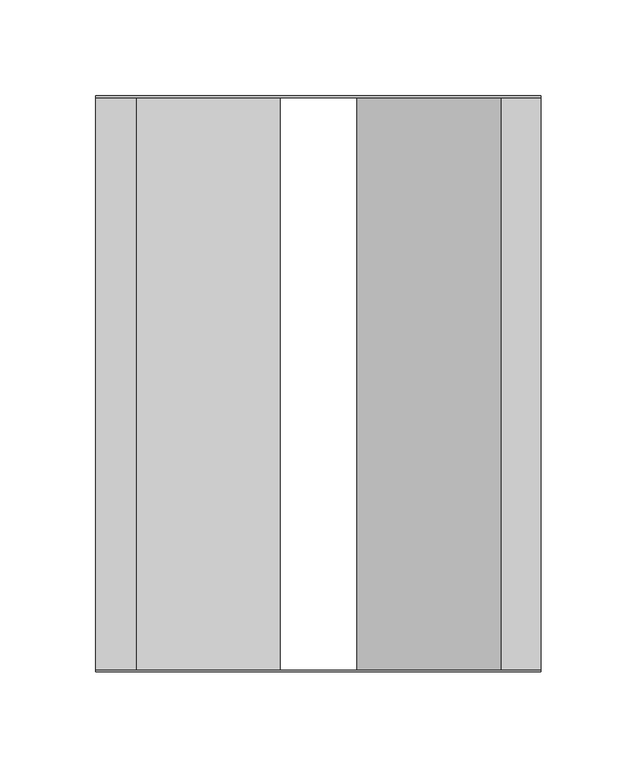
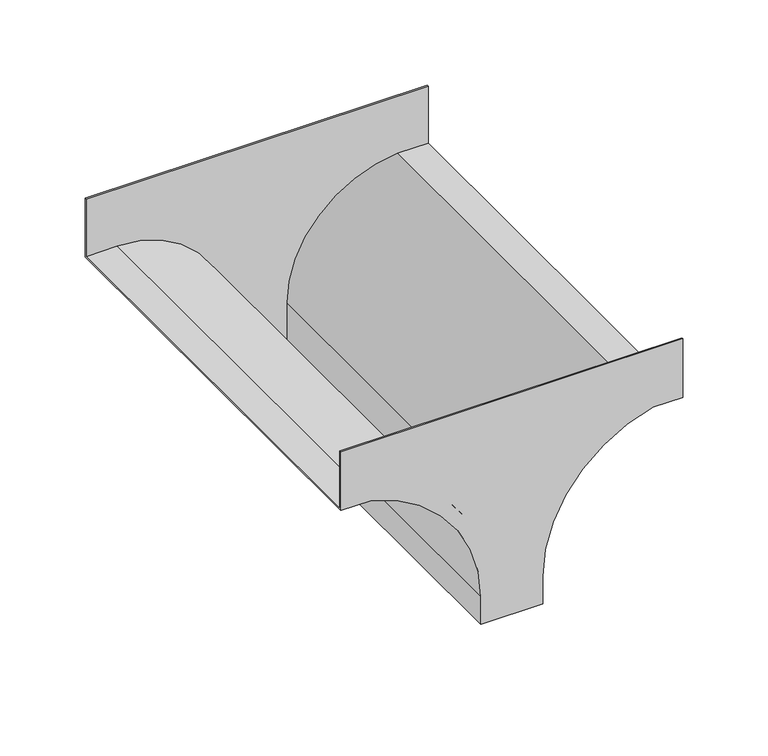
"""IFC4 building model written with IfcOpenShell, lengths in millimetres: cable carrier fitting geometry, BAKS_Vertical tee symetrical : TRSNJ_H42."""

import ifcopenshell
import ifcopenshell.guid

model = None  # the IFC model being written
_history = None  # IfcOwnerHistory: only IFC2X3 demands one
_inside = {}  # id of a spatial element -> (the spatial element, [elements in it])
_under = {}  # id of a project, library or spatial element -> (it, [spatial elements below it])
_declared = {}  # id of a project -> (the project, [libraries it declares])
_typed = {}  # id of a type object -> (the type object, [elements of that type])
_made_of = {}  # id of a material, layer set ... -> (it, [elements and type objects made of it])


def new_model(schema):
    """Start an empty IFC model of exactly this schema.

    Asked for "IFC4X3", IfcOpenShell would pick the latest addendum, in which some entities
    have other attributes; the version numbers below select the first issue.
    IFC2X3 requires an IfcOwnerHistory on every rooted entity: one is made here for all.
    """
    global model, _history
    if schema == "IFC4X3":
        model = ifcopenshell.file(schema_version=(4, 3, 0, 0))
    else:
        model = ifcopenshell.file(schema=schema)
    _inside.clear()
    _under.clear()
    _declared.clear()
    _typed.clear()
    _made_of.clear()
    _history = None
    if model.schema == "IFC2X3":
        org = make("IfcOrganization", Name="unknown")
        user = make(
            "IfcPersonAndOrganization",
            ThePerson=make("IfcPerson", FamilyName="unknown"),
            TheOrganization=org,
        )
        app = make(
            "IfcApplication",
            ApplicationDeveloper=org,
            Version="unknown",
            ApplicationFullName="unknown",
            ApplicationIdentifier="unknown",
        )
        _history = make(
            "IfcOwnerHistory",
            OwningUser=user,
            OwningApplication=app,
            ChangeAction="ADDED",
            CreationDate=0,
        )
    return model


def make(cls, **values):
    """One entity of the class cls with the attributes given. An attribute that is None is left unset."""
    return model.create_entity(
        cls, **{name: value for name, value in values.items() if value is not None}
    )


def rooted(cls, **values):
    """An entity with a GlobalId (a new one), such as an element, a storey or a relation."""
    return make(cls, GlobalId=ifcopenshell.guid.new(), OwnerHistory=_history, **values)


def si_unit(unit_type, name, prefix=None):
    """IfcSIUnit, for example si_unit("LENGTHUNIT", "METRE", prefix="MILLI")."""
    return make("IfcSIUnit", UnitType=unit_type, Prefix=prefix, Name=name)


def assignment(units):
    """IfcUnitAssignment: the units of a project."""
    return None if units is None else make("IfcUnitAssignment", Units=units)


def point(xyz):
    """IfcCartesianPoint."""
    return None if xyz is None else make("IfcCartesianPoint", Coordinates=xyz)


def direction(xyz):
    """IfcDirection."""
    return None if xyz is None else make("IfcDirection", DirectionRatios=xyz)


def frame(location, z_axis=None, x_axis=None):
    """IfcAxis2Placement3D, a coordinate frame: its origin and axes. An axis left out is left unset."""
    return make(
        "IfcAxis2Placement3D",
        Location=point(location),
        Axis=direction(z_axis),
        RefDirection=direction(x_axis),
    )


def origin():
    """The frame at (0, 0, 0) with its axes left unset."""
    return frame((0.0, 0.0, 0.0))


def place(relative_to, where):
    """IfcLocalPlacement: puts the frame where relative to a parent placement (None: the world)."""
    return make(
        "IfcLocalPlacement", PlacementRelTo=relative_to, RelativePlacement=where
    )


def context(
    kind, dimensions, precision=None, world=None, true_north=None, identifier=None
):
    """IfcGeometricRepresentationContext, for example the 3D "Model" context."""
    return make(
        "IfcGeometricRepresentationContext",
        ContextIdentifier=identifier,
        ContextType=kind,
        CoordinateSpaceDimension=dimensions,
        Precision=precision,
        WorldCoordinateSystem=world,
        TrueNorth=true_north,
    )


def project(units=None, contexts=None):
    """IfcProject with its units and contexts."""
    return rooted(
        "IfcProject",
        Name="project",
        RepresentationContexts=contexts,
        UnitsInContext=assignment(units),
    )


def spatial(cls, under=None, at=None, **own):
    """A site, building, storey or space (cls), placed at a placement, below another one or the project."""
    s = rooted(cls, ObjectPlacement=at, **own)
    if under is not None:
        _under.setdefault(under.id(), (under, []))[1].append(s)
    return s


def polyline(points):
    """IfcPolyline through the points."""
    return make("IfcPolyline", Points=[point(p) for p in points])


def circle_curve(where, radius):
    """IfcCircle in the frame where."""
    return make("IfcCircle", Position=where, Radius=radius)


def shape(context_of_items, identifier, shape_type, items):
    """IfcShapeRepresentation: the items that make up one representation, for example the "Body"."""
    return make(
        "IfcShapeRepresentation",
        ContextOfItems=context_of_items,
        RepresentationIdentifier=identifier,
        RepresentationType=shape_type,
        Items=items,
    )


def source(mapping_origin, context_of_items, identifier, shape_type, items):
    """IfcRepresentationMap: a shape defined once, which mapped items show again and again."""
    return make(
        "IfcRepresentationMap",
        MappingOrigin=mapping_origin,
        MappedRepresentation=shape(context_of_items, identifier, shape_type, items),
    )


def transform(
    local_origin,
    x_axis=None,
    y_axis=None,
    z_axis=None,
    scale=None,
    scale2=None,
    scale3=None,
    uniform=True,
):
    """IfcCartesianTransformationOperator3D, or its non-uniform kind. x_axis, y_axis, z_axis: its Axis1, 2, 3."""
    if uniform:
        return make(
            "IfcCartesianTransformationOperator3D",
            Axis1=direction(x_axis),
            Axis2=direction(y_axis),
            LocalOrigin=point(local_origin),
            Scale=scale,
            Axis3=direction(z_axis),
        )
    return make(
        "IfcCartesianTransformationOperator3DnonUniform",
        Axis1=direction(x_axis),
        Axis2=direction(y_axis),
        LocalOrigin=point(local_origin),
        Scale=scale,
        Axis3=direction(z_axis),
        Scale2=scale2,
        Scale3=scale3,
    )


def mapped(mapping_source, mapping_target):
    """IfcMappedItem: shows the shape of a source again, moved by a transform."""
    return make(
        "IfcMappedItem", MappingSource=mapping_source, MappingTarget=mapping_target
    )


def made_of(thing, what):
    """Note that an element or type object is made of a material, layer set ...; save() writes the relation."""
    if what is not None:
        _made_of.setdefault(what.id(), (what, []))[1].append(thing)
    return thing


def element(
    cls,
    number,
    at=None,
    inside=None,
    cuts=None,
    type_object=None,
    material=None,
    context=None,
    identifier="Body",
    shape_type=None,
    held_by="IfcProductDefinitionShape",
    body=None,
    shapes=None,
    **own,
):
    """One element of the class cls, such as IfcWall. Its Tag is "e" and its number.

    at: its placement. inside: the storey or other place that contains it. cuts: it is an
    opening in that element (IfcRelVoidsElement). A single representation is given by context,
    identifier, shape_type and body (its items); several are given by shapes. held_by: the class
    of the entity that holds the representations. save() writes the other relations.
    """
    e = rooted(cls, Tag="e%d" % number, ObjectPlacement=at, **own)
    if body is not None:
        shapes = [shape(context, identifier, shape_type, body)]
    if shapes is not None:
        e.Representation = make(held_by, Representations=shapes)
    if inside is not None:
        _inside.setdefault(inside.id(), (inside, []))[1].append(e)
    if cuts is not None:
        rooted(
            "IfcRelVoidsElement", RelatingBuildingElement=cuts, RelatedOpeningElement=e
        )
    if type_object is not None:
        _typed.setdefault(type_object.id(), (type_object, []))[1].append(e)
    return made_of(e, material)


def aggregate(whole, parts):
    """IfcRelAggregates: a whole, such as a stair, and the parts it consists of."""
    return rooted("IfcRelAggregates", RelatingObject=whole, RelatedObjects=parts)


def save(model, path):
    """Write the relations noted so far, then the file.

    IfcRelAggregates (storeys below a building ...), IfcRelContainedInSpatialStructure (elements
    in a storey), IfcRelDefinesByType, IfcRelAssociatesMaterial and IfcRelDeclares: one each for
    every whole, place, type object, material and project.
    """
    for whole, parts in _under.values():
        aggregate(whole, parts)
    for where, things in _inside.values():
        rooted(
            "IfcRelContainedInSpatialStructure",
            RelatedElements=things,
            RelatingStructure=where,
        )
    for kind, things in _typed.values():
        rooted("IfcRelDefinesByType", RelatedObjects=things, RelatingType=kind)
    for what, things in _made_of.values():
        rooted("IfcRelAssociatesMaterial", RelatedObjects=things, RelatingMaterial=what)
    for by, libraries in _declared.values():
        rooted("IfcRelDeclares", RelatingContext=by, RelatedDefinitions=libraries)
    model.write(path)


def plane_surface(at):
    """IfcPlane: the flat surface through the origin of the frame at, square to its z axis."""
    return make("IfcPlane", Position=at)


def cylinder_surface(at, radius):
    """IfcCylindricalSurface: all points at the distance radius from the z axis of the frame at."""
    return make("IfcCylindricalSurface", Position=at, Radius=radius)


def revolved_surface(curve, axis_point, axis_direction):
    """IfcSurfaceOfRevolution: the curve turned about the line through axis_point along axis_direction."""
    return make(
        "IfcSurfaceOfRevolution",
        SweptCurve=make("IfcArbitraryOpenProfileDef", ProfileType="CURVE", Curve=curve),
        AxisPosition=make("IfcAxis1Placement", Location=point(axis_point), Axis=direction(axis_direction)),
    )


def advanced_brep(points, edges, surfaces, faces):
    """IfcAdvancedBrep: a solid bounded by faces that lie on surfaces and meet in shared edges.

    An edge is (start, end): straight between two places in points (the first is 0);
    or (start, end, curve); or (start, end, curve, False) where it runs against its curve.
    A face is (place in surfaces, loops), or (place, loops, False) where it looks against
    its surface's normal. A loop lists edges by number (the first is 1), with a minus sign
    where the edge is run from its end to its start. The first loop is the outer one.
    """
    corners = [point(p) for p in points]
    vertices = [make("IfcVertexPoint", VertexGeometry=c) for c in corners]
    made = []
    for start, end, *more in edges:
        made.append(
            make(
                "IfcEdgeCurve",
                EdgeStart=vertices[start],
                EdgeEnd=vertices[end],
                EdgeGeometry=more[0] if more else make("IfcPolyline", Points=[corners[start], corners[end]]),
                SameSense=more[1] if len(more) > 1 else True,
            )
        )
    hull = []
    for where, loops, *sense in faces:
        bounds = []
        for j, loop in enumerate(loops):
            ring = [make("IfcOrientedEdge", EdgeElement=made[abs(k) - 1], Orientation=k > 0) for k in loop]
            bounds.append(
                make(
                    "IfcFaceOuterBound" if j == 0 else "IfcFaceBound",
                    Bound=make("IfcEdgeLoop", EdgeList=ring),
                    Orientation=True,
                )
            )
        hull.append(make("IfcAdvancedFace", Bounds=bounds, FaceSurface=surfaces[where], SameSense=sense[0] if sense else True))
    return make("IfcAdvancedBrep", Outer=make("IfcClosedShell", CfsFaces=hull))


def cable_carrier_fitting_2f03b0e3(model_context):
    return source(origin(), model_context, "Body", "AdvancedBrep", [
        advanced_brep(
        [(-21.0, -150.0, -116.0), (-21.0, -150.0, -136.0), (21.0, -150.0, -136.0), (21.0, -150.0, -116.0), (96.0, -150.0, -21.0), (116.0, -150.0, -21.0), (116.0, -150.0, 21.0), (-116.0, -150.0, 21.0), (-116.0, -150.0, -21.0), (-96.0, -150.0, -21.0), (-21.0, 150.0, -116.0), (-96.0, 150.0, -21.0), (-116.0, 150.0, -21.0), (-116.0, 150.0, 21.0), (116.0, 150.0, 21.0), (116.0, 150.0, -21.0), (96.0, 150.0, -21.0), (21.0, 150.0, -116.0), (21.0, 150.0, -136.0), (-21.0, 150.0, -136.0), (-20.0, -149.0, -136.0), (20.0, -149.0, -136.0), (20.0, 149.0, -136.0), (-20.0, 149.0, -136.0), (116.0, 149.0, 21.0), (116.0, 149.0, -20.0), (116.0, -149.0, -20.0), (116.0, -149.0, 21.0), (-116.0, -149.0, 21.0), (-116.0, 149.0, 21.0), (-116.0, -149.0, -20.0), (-116.0, 149.0, -20.0), (95.0, -149.0, -20.0), (20.0, -149.0, -101.0), (-20.0, -149.0, -101.0), (-95.0, -149.0, -20.0), (-95.0, 149.0, -20.0), (-20.0, 149.0, -101.0), (20.0, 149.0, -101.0), (95.0, 149.0, -20.0)],
        [
            (0, 1),
            (1, 2),
            (2, 3),
            (3, 4, circle_curve(frame((118.6666667, -150.0, -116.0), z_axis=(0.0, 1.0, 0.0), x_axis=(1.0, 0.0, 0.0)), 97.6666667)),
            (4, 5),
            (5, 6),
            (6, 7),
            (7, 8),
            (8, 9),
            (9, 0, circle_curve(frame((-118.6666667, -150.0, -116.0), z_axis=(0.0, 1.0, 0.0), x_axis=(1.0, 0.0, 0.0)), 97.6666667)),
            (10, 11, circle_curve(frame((-118.6666667, 150.0, -116.0), z_axis=(0.0, -1.0, 0.0), x_axis=(1.0, 0.0, 0.0)), 97.6666667)),
            (11, 12),
            (12, 13),
            (13, 14),
            (14, 15),
            (15, 16),
            (16, 17, circle_curve(frame((118.6666667, 150.0, -116.0), z_axis=(0.0, -1.0, 0.0), x_axis=(1.0, 0.0, 0.0)), 97.6666667)),
            (17, 18),
            (18, 19),
            (19, 10),
            (0, 10),
            (19, 1),
            (18, 2),
            (20, 21),
            (21, 22),
            (22, 23),
            (23, 20),
            (17, 3),
            (16, 4),
            (15, 5),
            (14, 24),
            (24, 25),
            (25, 26),
            (26, 27),
            (27, 6),
            (27, 28),
            (28, 7),
            (13, 29),
            (29, 24),
            (28, 30),
            (30, 31),
            (31, 29),
            (12, 8),
            (11, 9),
            (26, 32),
            (32, 33, circle_curve(frame((101.24, -149.0, -101.0), z_axis=(0.0, -1.0, 0.0), x_axis=(1.0, 0.0, 0.0)), 81.24)),
            (33, 21),
            (20, 34),
            (34, 35, circle_curve(frame((-95.0, -149.0, -95.2222222), z_axis=(0.0, -1.0, 0.0), x_axis=(1.0, 0.0, 0.0)), 75.2222222)),
            (35, 30),
            (31, 36),
            (36, 37, circle_curve(frame((-95.0, 149.0, -95.2222222), z_axis=(0.0, 1.0, 0.0), x_axis=(1.0, 0.0, 0.0)), 75.2222222)),
            (37, 23),
            (22, 38),
            (38, 39, circle_curve(frame((101.24, 149.0, -101.0), z_axis=(0.0, 1.0, 0.0), x_axis=(1.0, 0.0, 0.0)), 81.24)),
            (39, 25),
            (35, 36),
            (34, 37),
            (33, 38),
            (32, 39),
        ],
        [
            plane_surface(frame((-21.0, -150.0, -136.0), z_axis=(0.0, -1.0, 0.0), x_axis=(0.0, 0.0, -1.0))),
            plane_surface(frame((-21.0, 150.0, -136.0), z_axis=(0.0, 1.0, 0.0), x_axis=(0.0, 0.0, 1.0))),
            plane_surface(frame((-21.0, -150.0, -116.0), z_axis=(-1.0, 0.0, 0.0), x_axis=(0.0, 1.0, 0.0))),
            plane_surface(frame((-21.0, -150.0, -136.0), z_axis=(0.0, 0.0, -1.0), x_axis=(0.0, 1.0, 0.0))),
            plane_surface(frame((21.0, -150.0, -136.0), z_axis=(1.0, 0.0, 0.0), x_axis=(0.0, 1.0, 0.0))),
            revolved_surface(polyline([(216.3333334, 150.0, -116.0), (216.3333334, -150.0, -116.0)]), (118.6666667, 150.0, -116.0), (0.0, 1.0, 0.0)),
            plane_surface(frame((96.0, -150.0, -21.0), z_axis=(0.0, 0.0, -1.0), x_axis=(0.0, 1.0, 0.0))),
            plane_surface(frame((116.0, -150.0, -21.0), z_axis=(1.0, 0.0, 0.0), x_axis=(0.0, 1.0, 0.0))),
            plane_surface(frame((116.0, -150.0, 21.0), z_axis=(0.0, 0.0, 1.0), x_axis=(0.0, 1.0, 0.0))),
            plane_surface(frame((-116.0, -150.0, 21.0), z_axis=(-1.0, 0.0, 0.0), x_axis=(0.0, 1.0, 0.0))),
            plane_surface(frame((-116.0, -150.0, -21.0), z_axis=(0.0, 0.0, -1.0), x_axis=(0.0, 1.0, 0.0))),
            revolved_surface(polyline([(-21.0, 150.0, -116.0), (-21.0, -150.0, -116.0)]), (-118.6666667, 150.0, -116.0), (0.0, 1.0, 0.0)),
            plane_surface(frame((-116.0, -149.0, -20.0), z_axis=(0.0, 1.0, 0.0), x_axis=(1.0, 0.0, 0.0))),
            plane_surface(frame((-116.0, 149.0, -20.0), z_axis=(0.0, -1.0, 0.0), x_axis=(-1.0, 0.0, 0.0))),
            plane_surface(frame((-116.0, -149.0, -20.0), z_axis=(0.0, 0.0, 1.0), x_axis=(0.0, 1.0, 0.0))),
            cylinder_surface(frame((-95.0, 149.0, -95.2222222), z_axis=(0.0, 1.0, 0.0), x_axis=(1.0, 0.0, 0.0)), 75.2222222),
            plane_surface(frame((-20.0, -149.0, -101.0), z_axis=(1.0, 0.0, 0.0), x_axis=(0.0, 1.0, 0.0))),
            plane_surface(frame((20.0, -149.0, -136.0), z_axis=(-1.0, 0.0, 0.0), x_axis=(0.0, 1.0, 0.0))),
            cylinder_surface(frame((101.24, 149.0, -101.0), z_axis=(0.0, 1.0, 0.0), x_axis=(1.0, 0.0, 0.0)), 81.24),
            plane_surface(frame((95.0, -149.0, -20.0), z_axis=(0.0, 0.0, 1.0), x_axis=(0.0, 1.0, 0.0))),
        ],
        [
            (0, [[1, 2, 3, 4, 5, 6, 7, 8, 9, 10]]),
            (1, [[11, 12, 13, 14, 15, 16, 17, 18, 19, 20]]),
            (2, [[-1, 21, -20, 22]]),
            (3, [[-2, -22, -19, 23], [24, 25, 26, 27]]),
            (4, [[-3, -23, -18, 28]]),
            (5, [[-4, -28, -17, 29]]),
            (6, [[-5, -29, -16, 30]]),
            (7, [[-6, -30, -15, 31, 32, 33, 34, 35]]),
            (8, [[-7, -35, 36, 37]]),
            (8, [[-14, 38, 39, -31]]),
            (9, [[-8, -37, 40, 41, 42, -38, -13, 43]]),
            (10, [[-9, -43, -12, 44]]),
            (11, [[-10, -44, -11, -21]]),
            (12, [[45, 46, 47, -24, 48, 49, 50, -40, -36, -34]]),
            (13, [[51, 52, 53, -26, 54, 55, 56, -32, -39, -42]]),
            (14, [[-50, 57, -51, -41]]),
            (15, [[-49, 58, -52, -57]]),
            (16, [[-48, -27, -53, -58]]),
            (17, [[-47, 59, -54, -25]]),
            (18, [[-46, 60, -55, -59]]),
            (19, [[-45, -33, -56, -60]]),
        ],
    ),
    ])


if __name__ == "__main__":
    model = new_model("IFC4")
    model_context = context("Model", 3, world=origin())
    ifc_project = project(units=[si_unit("LENGTHUNIT", "METRE", prefix="MILLI")], contexts=[model_context])
    site = spatial("IfcSite", under=ifc_project)
    building = spatial("IfcBuilding", under=site)
    placement = place(None, origin())
    cable_carrier_fitting_shape = cable_carrier_fitting_2f03b0e3(model_context)
    element("IfcCableCarrierFitting", 1, ObjectType="BAKS_Vertical tee symetrical : TRSNJ_H42", at=placement, inside=building, context=model_context, shape_type="MappedRepresentation", body=[
        mapped(cable_carrier_fitting_shape, transform((0.0, 0.0, 0.0), x_axis=(1.0, 0.0, 0.0), y_axis=(0.0, 1.0, 0.0), z_axis=(0.0, 0.0, 1.0))),
    ])
    save(model, "model.ifc")
